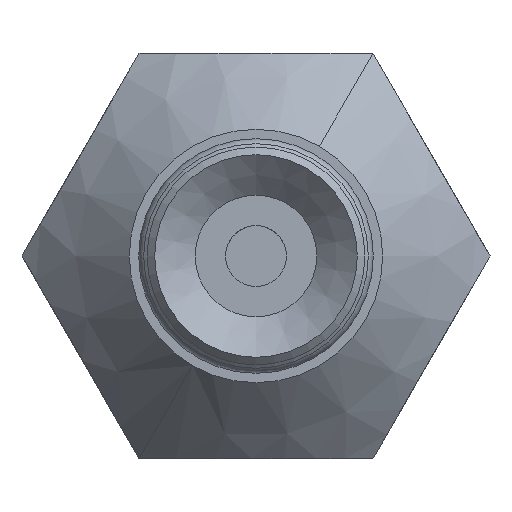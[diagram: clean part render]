
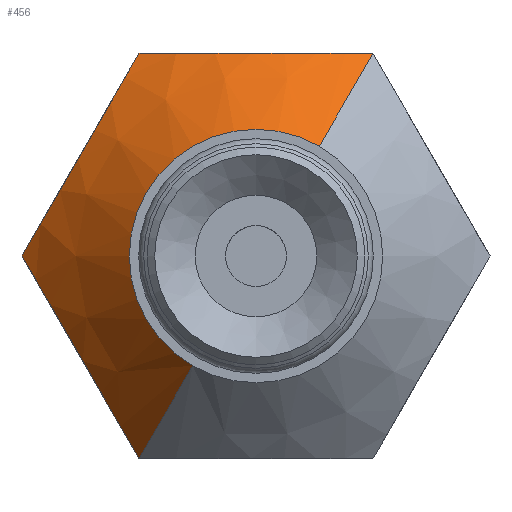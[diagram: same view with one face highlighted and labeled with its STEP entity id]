
A CAD part, front view. The second image highlights one B-rep face of the part: STEP entity #456.
In plain terms, the highlighted conical face has half-angle 45 degrees and reference radius 2.5 mm.
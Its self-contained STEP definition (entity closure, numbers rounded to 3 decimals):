
#456=ADVANCED_FACE('',(#648),#649,.T.);
#648=FACE_OUTER_BOUND('',#934,.T.);
#649=CONICAL_SURFACE('',#935,2.5,0.785);
#934=EDGE_LOOP('',(#1529,#1530,#1531,#1532,#1533,#1534));
#935=AXIS2_PLACEMENT_3D('',#1535,#1536,#1537);
#1529=ORIENTED_EDGE('',*,*,#2127,.F.);
#1530=ORIENTED_EDGE('',*,*,#2128,.T.);
#1531=ORIENTED_EDGE('',*,*,#2129,.F.);
#1532=ORIENTED_EDGE('',*,*,#2130,.F.);
#1533=ORIENTED_EDGE('',*,*,#2123,.F.);
#1534=ORIENTED_EDGE('',*,*,#2131,.F.);
#1535=CARTESIAN_POINT('',(0.0,0.,0.0));
#1536=DIRECTION('',(-0.0,1.0,0.0));
#1537=DIRECTION('',(0.866,0.0,-0.5));
#2123=EDGE_CURVE('',#2472,#2473,#2474,.T.);
#2127=EDGE_CURVE('',#2479,#2480,#2481,.T.);
#2128=EDGE_CURVE('',#2479,#2408,#2482,.T.);
#2129=EDGE_CURVE('',#2483,#2408,#2484,.T.);
#2130=EDGE_CURVE('',#2473,#2483,#2485,.T.);
#2131=EDGE_CURVE('',#2480,#2472,#2486,.T.);
#2408=VERTEX_POINT('',#2939);
#2472=VERTEX_POINT('',#3062);
#2473=VERTEX_POINT('',#3063);
#2474=B_SPLINE_CURVE_WITH_KNOTS('',3,(#3064,#3065,#3066,#3067,#3068,#3069,#3070,#3071,#3072,#3073,#3074,#3075),.UNSPECIFIED.,.F.,.F.,(4,2,2,2,2,4),(0.0,0.001,0.002,0.002,0.004,0.005),.UNSPECIFIED.);
#2479=VERTEX_POINT('',#3085);
#2480=VERTEX_POINT('',#3086);
#2481=CIRCLE('',#3087,2.5);
#2482=LINE('',#3088,#3089);
#2483=VERTEX_POINT('',#3090);
#2484=B_SPLINE_CURVE_WITH_KNOTS('',3,(#3091,#3092,#3093,#3094,#3095,#3096,#3097,#3098,#3099,#3100,#3101,#3102),.UNSPECIFIED.,.F.,.F.,(4,2,2,2,2,4),(0.0,0.001,0.002,0.002,0.004,0.005),.UNSPECIFIED.);
#2485=B_SPLINE_CURVE_WITH_KNOTS('',3,(#3103,#3104,#3105,#3106,#3107,#3108,#3109,#3110,#3111,#3112,#3113,#3114),.UNSPECIFIED.,.F.,.F.,(4,2,2,2,2,4),(0.,0.001,0.002,0.002,0.004,0.005),.UNSPECIFIED.);
#2486=LINE('',#3115,#3116);
#2939=CARTESIAN_POINT('',(2.309,2.119,4.0));
#3062=CARTESIAN_POINT('',(-2.309,2.119,-4.0));
#3063=CARTESIAN_POINT('',(-4.619,2.119,0.));
#3064=CARTESIAN_POINT('',(-2.309,2.119,-4.0));
#3065=CARTESIAN_POINT('',(-2.49,1.938,-3.687));
#3066=CARTESIAN_POINT('',(-2.674,1.785,-3.368));
#3067=CARTESIAN_POINT('',(-2.961,1.621,-2.871));
#3068=CARTESIAN_POINT('',(-3.058,1.577,-2.703));
#3069=CARTESIAN_POINT('',(-3.257,1.517,-2.359));
#3070=CARTESIAN_POINT('',(-3.359,1.5,-2.182));
#3071=CARTESIAN_POINT('',(-3.661,1.499,-1.658));
#3072=CARTESIAN_POINT('',(-3.86,1.56,-1.315));
#3073=CARTESIAN_POINT('',(-4.25,1.782,-0.638));
#3074=CARTESIAN_POINT('',(-4.437,1.937,-0.314));
#3075=CARTESIAN_POINT('',(-4.619,2.119,0.));
#3085=CARTESIAN_POINT('',(1.25,0.,2.165));
#3086=CARTESIAN_POINT('',(-1.25,0.,-2.165));
#3087=AXIS2_PLACEMENT_3D('',#3575,#3576,#3577);
#3088=CARTESIAN_POINT('',(1.78,1.059,3.083));
#3089=VECTOR('',#3578,1.0);
#3090=CARTESIAN_POINT('',(-2.309,2.119,4.0));
#3091=CARTESIAN_POINT('',(-2.309,2.119,4.0));
#3092=CARTESIAN_POINT('',(-1.949,1.938,4.0));
#3093=CARTESIAN_POINT('',(-1.58,1.785,4.0));
#3094=CARTESIAN_POINT('',(-1.006,1.621,4.0));
#3095=CARTESIAN_POINT('',(-0.812,1.577,4.0));
#3096=CARTESIAN_POINT('',(-0.415,1.517,4.0));
#3097=CARTESIAN_POINT('',(-0.21,1.5,4.0));
#3098=CARTESIAN_POINT('',(0.395,1.499,4.0));
#3099=CARTESIAN_POINT('',(0.791,1.56,4.0));
#3100=CARTESIAN_POINT('',(1.573,1.782,4.0));
#3101=CARTESIAN_POINT('',(1.946,1.937,4.0));
#3102=CARTESIAN_POINT('',(2.309,2.119,4.0));
#3103=CARTESIAN_POINT('',(-4.619,2.119,0.0));
#3104=CARTESIAN_POINT('',(-4.438,1.938,0.313));
#3105=CARTESIAN_POINT('',(-4.254,1.785,0.632));
#3106=CARTESIAN_POINT('',(-3.967,1.621,1.129));
#3107=CARTESIAN_POINT('',(-3.87,1.577,1.297));
#3108=CARTESIAN_POINT('',(-3.671,1.517,1.641));
#3109=CARTESIAN_POINT('',(-3.569,1.5,1.818));
#3110=CARTESIAN_POINT('',(-3.267,1.499,2.342));
#3111=CARTESIAN_POINT('',(-3.069,1.56,2.685));
#3112=CARTESIAN_POINT('',(-2.678,1.782,3.362));
#3113=CARTESIAN_POINT('',(-2.491,1.937,3.686));
#3114=CARTESIAN_POINT('',(-2.309,2.119,4.0));
#3115=CARTESIAN_POINT('',(-1.78,1.059,-3.083));
#3116=VECTOR('',#3579,1.0);
#3575=CARTESIAN_POINT('',(0.0,0.,0.0));
#3576=DIRECTION('',(0.0,-1.0,0.0));
#3577=DIRECTION('',(0.0,0.0,-1.0));
#3578=DIRECTION('',(0.354,0.707,0.612));
#3579=DIRECTION('',(-0.354,0.707,-0.612));
